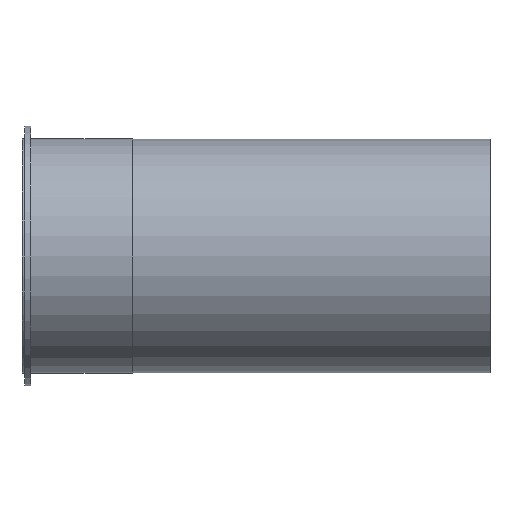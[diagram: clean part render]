
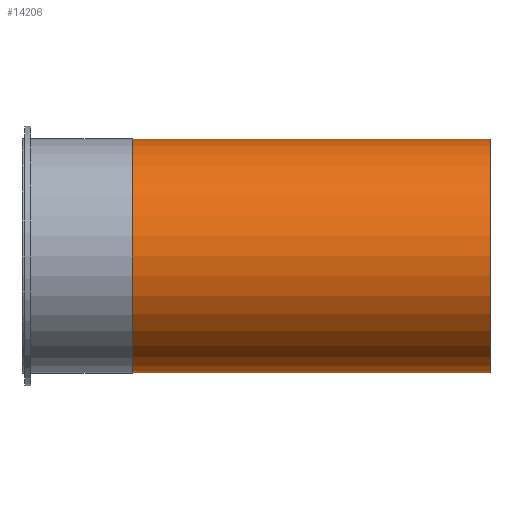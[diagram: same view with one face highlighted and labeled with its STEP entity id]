
A CAD part, front view. The second image highlights one B-rep face of the part: STEP entity #14206.
In plain terms, the highlighted cylindrical face has radius 124.968 mm (diameter 249.936 mm), a full revolution.
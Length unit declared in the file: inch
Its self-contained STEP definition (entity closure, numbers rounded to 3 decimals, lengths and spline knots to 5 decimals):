
#14175=CARTESIAN_POINT('',(4.63,4.92,0.0));
#14176=VERTEX_POINT('',#14175);
#14177=CARTESIAN_POINT('',(4.63,0.0,0.0));
#14178=DIRECTION('',(1.0,0.0,0.0));
#14179=DIRECTION('',(0.0,1.0,0.0));
#14180=AXIS2_PLACEMENT_3D('',#14177,#14178,#14179);
#14181=CIRCLE('',#14180,4.92);
#14182=EDGE_CURVE('',#14176,#14176,#14181,.T.);
#14187=CARTESIAN_POINT('',(12.15752,0.0,0.0));
#14188=DIRECTION('',(1.0,0.0,0.0));
#14189=DIRECTION('',(0.0,1.0,0.0));
#14190=AXIS2_PLACEMENT_3D('',#14187,#14188,#14189);
#14191=CYLINDRICAL_SURFACE('',#14190,4.92);
#14192=CARTESIAN_POINT('',(19.68504,4.92,0.0));
#14193=VERTEX_POINT('',#14192);
#14194=CARTESIAN_POINT('',(19.68504,0.0,0.0));
#14195=DIRECTION('',(1.0,0.0,0.0));
#14196=DIRECTION('',(0.0,1.0,0.0));
#14197=AXIS2_PLACEMENT_3D('',#14194,#14195,#14196);
#14198=CIRCLE('',#14197,4.92);
#14199=EDGE_CURVE('',#14193,#14193,#14198,.T.);
#14200=ORIENTED_EDGE('',*,*,#14199,.F.);
#14201=EDGE_LOOP('',(#14200));
#14202=FACE_OUTER_BOUND('',#14201,.T.);
#14203=ORIENTED_EDGE('',*,*,#14182,.T.);
#14204=EDGE_LOOP('',(#14203));
#14205=FACE_BOUND('',#14204,.T.);
#14206=ADVANCED_FACE('',(#14202,#14205),#14191,.T.);
